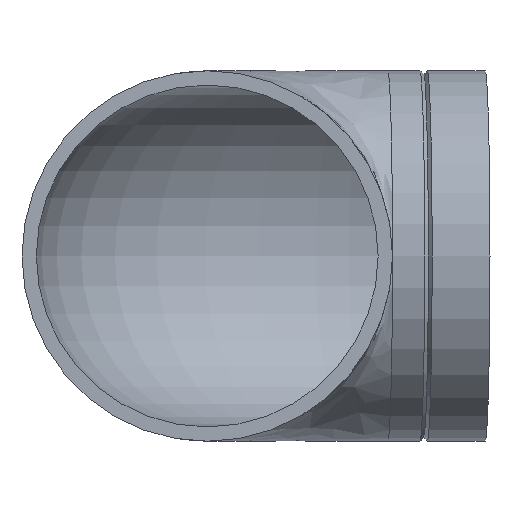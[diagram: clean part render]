
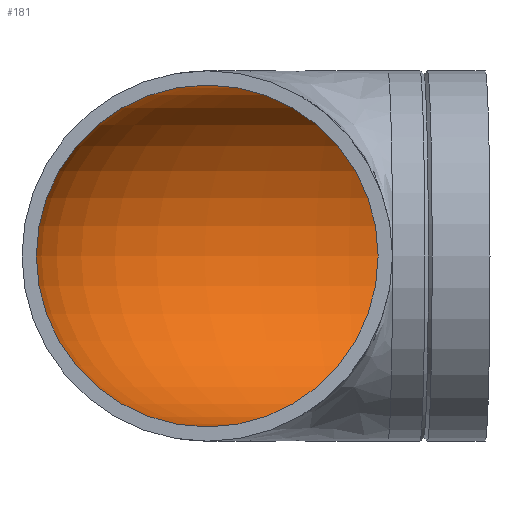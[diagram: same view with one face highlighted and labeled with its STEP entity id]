
A CAD part, front view. The second image highlights one B-rep face of the part: STEP entity #181.
In plain terms, the highlighted toroidal (fillet/blend) face has major radius 80 mm and minor radius 73.8 mm.
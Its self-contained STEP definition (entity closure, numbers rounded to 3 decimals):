
#14=TOROIDAL_SURFACE($,#212,80.,73.8);
#36=FACE_BOUND($,#78,.T.);
#52=FACE_OUTER_BOUND($,#77,.T.);
#77=EDGE_LOOP($,(#154));
#78=EDGE_LOOP($,(#155));
#96=CIRCLE($,#207,73.8);
#99=CIRCLE($,#213,73.8);
#112=VERTEX_POINT($,#352);
#114=VERTEX_POINT($,#360);
#127=EDGE_CURVE($,#112,#112,#96,.T.);
#130=EDGE_CURVE($,#114,#114,#99,.T.);
#154=ORIENTED_EDGE($,*,*,#130,.T.);
#155=ORIENTED_EDGE($,*,*,#127,.F.);
#181=ADVANCED_FACE($,(#52,#36),#14,.F.);
#207=AXIS2_PLACEMENT_3D($,#353,#257,#258);
#212=AXIS2_PLACEMENT_3D($,#359,#267,#268);
#213=AXIS2_PLACEMENT_3D($,#361,#269,#270);
#257=DIRECTION('center_axis',(-1.,-0.026,0.));
#258=DIRECTION('ref_axis',(0.026,-1.,0.));
#267=DIRECTION('center_axis',(0.,0.,-1.));
#268=DIRECTION('ref_axis',(-1.,0.,0.));
#269=DIRECTION('center_axis',(0.,-1.,0.));
#270=DIRECTION('ref_axis',(1.,0.,0.));
#352=CARTESIAN_POINT('',(75.974,193.775,0.));
#353=CARTESIAN_POINT('Origin',(77.906,120.,0.));
#359=CARTESIAN_POINT('Origin',(80.,40.027,0.));
#360=CARTESIAN_POINT('',(-73.8,40.027,0.));
#361=CARTESIAN_POINT('Origin',(0.,40.027,0.));
